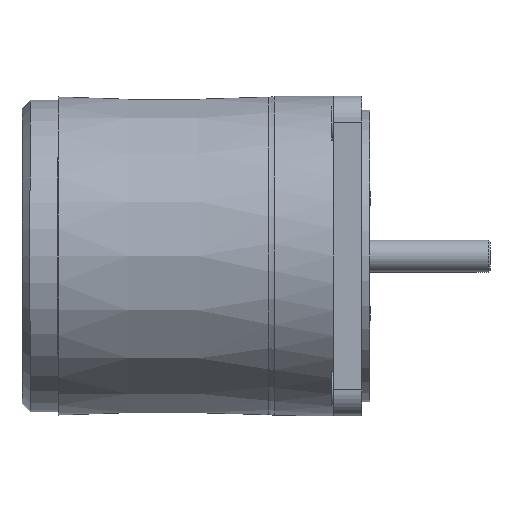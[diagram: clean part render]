
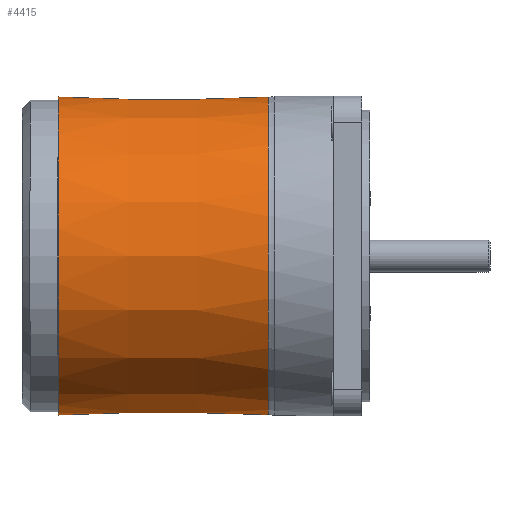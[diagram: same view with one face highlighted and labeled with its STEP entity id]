
A CAD part, front view. The second image highlights one B-rep face of the part: STEP entity #4415.
In plain terms, the highlighted conical face has half-angle 0.073 degrees and reference radius 39.784 mm.
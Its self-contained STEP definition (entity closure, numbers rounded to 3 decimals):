
#115=(
BOUNDED_CURVE()
B_SPLINE_CURVE(2,(#7958,#7959,#7960),.UNSPECIFIED.,.F.,.F.)
B_SPLINE_CURVE_WITH_KNOTS((3,3),(0.114,3.908),
 .UNSPECIFIED.)
CURVE()
GEOMETRIC_REPRESENTATION_ITEM()
RATIONAL_B_SPLINE_CURVE((1.,1.,1.))
REPRESENTATION_ITEM('')
);
#169=FACE_BOUND('',#945,.T.);
#240=CONICAL_SURFACE('',#4851,39.784,0.073);
#297=B_SPLINE_CURVE_WITH_KNOTS('',3,(#7945,#7946,#7947,#7948,#7949,#7950,
#7951,#7952,#7953,#7954,#7955,#7956),.UNSPECIFIED.,.F.,.F.,(4,2,2,2,2,4),
(-0.001,0.,0.027,0.048,0.073,
0.103),.UNSPECIFIED.);
#298=B_SPLINE_CURVE_WITH_KNOTS('',3,(#7966,#7967,#7968,#7969),
 .UNSPECIFIED.,.F.,.F.,(4,4),(-5.75,-1.842),
 .UNSPECIFIED.);
#299=B_SPLINE_CURVE_WITH_KNOTS('',3,(#7971,#7972,#7973,#7974),
 .UNSPECIFIED.,.F.,.F.,(4,4),(5.75,5.8),
 .UNSPECIFIED.);
#664=FACE_OUTER_BOUND('',#944,.T.);
#944=EDGE_LOOP('',(#3779,#3780,#3781,#3782,#3783,#3784,#3785));
#945=EDGE_LOOP('',(#3786));
#1203=CIRCLE('',#4840,39.75);
#1211=CIRCLE('',#4852,39.817);
#1212=CIRCLE('',#4853,39.817);
#1213=CIRCLE('',#4854,39.767);
#2125=VERTEX_POINT('',#7914);
#2136=VERTEX_POINT('',#7943);
#2137=VERTEX_POINT('',#7944);
#2138=VERTEX_POINT('',#7957);
#2139=VERTEX_POINT('',#7961);
#2140=VERTEX_POINT('',#7963);
#2141=VERTEX_POINT('',#7965);
#2142=VERTEX_POINT('',#7970);
#2696=EDGE_CURVE('',#2125,#2125,#1203,.T.);
#2707=EDGE_CURVE('',#2136,#2137,#297,.T.);
#2708=EDGE_CURVE('',#2137,#2138,#115,.T.);
#2709=EDGE_CURVE('',#2139,#2138,#1211,.T.);
#2710=EDGE_CURVE('',#2140,#2139,#1212,.T.);
#2711=EDGE_CURVE('',#2141,#2140,#298,.T.);
#2712=EDGE_CURVE('',#2141,#2142,#299,.T.);
#2713=EDGE_CURVE('',#2136,#2142,#1213,.T.);
#3779=ORIENTED_EDGE('',*,*,#2707,.T.);
#3780=ORIENTED_EDGE('',*,*,#2708,.T.);
#3781=ORIENTED_EDGE('',*,*,#2709,.F.);
#3782=ORIENTED_EDGE('',*,*,#2710,.F.);
#3783=ORIENTED_EDGE('',*,*,#2711,.F.);
#3784=ORIENTED_EDGE('',*,*,#2712,.T.);
#3785=ORIENTED_EDGE('',*,*,#2713,.F.);
#3786=ORIENTED_EDGE('',*,*,#2696,.T.);
#4415=ADVANCED_FACE('',(#664,#169),#240,.T.);
#4840=AXIS2_PLACEMENT_3D('',#7915,#5872,#5873);
#4851=AXIS2_PLACEMENT_3D('',#7942,#5896,#5897);
#4852=AXIS2_PLACEMENT_3D('',#7962,#5898,#5899);
#4853=AXIS2_PLACEMENT_3D('',#7964,#5900,#5901);
#4854=AXIS2_PLACEMENT_3D('',#7975,#5902,#5903);
#5872=DIRECTION('center_axis',(1.,0.,0.));
#5873=DIRECTION('ref_axis',(0.,1.,0.));
#5896=DIRECTION('center_axis',(1.,0.,0.));
#5897=DIRECTION('ref_axis',(0.,1.,0.));
#5898=DIRECTION('center_axis',(1.,0.,0.));
#5899=DIRECTION('ref_axis',(0.,1.,0.));
#5900=DIRECTION('center_axis',(1.,0.,0.));
#5901=DIRECTION('ref_axis',(0.,1.,0.));
#5902=DIRECTION('center_axis',(1.,0.,0.));
#5903=DIRECTION('ref_axis',(0.,1.,0.01));
#7914=CARTESIAN_POINT('',(9.,39.75,0.));
#7915=CARTESIAN_POINT('Origin',(9.,0.,0.));
#7942=CARTESIAN_POINT('Origin',(35.288,0.,0.));
#7943=CARTESIAN_POINT('',(22.001,28.641,-27.587));
#7944=CARTESIAN_POINT('',(23.636,28.041,-28.2));
#7945=CARTESIAN_POINT('Ctrl Pts',(22.001,28.641,-27.587));
#7946=CARTESIAN_POINT('Ctrl Pts',(22.002,28.64,-27.589));
#7947=CARTESIAN_POINT('Ctrl Pts',(22.003,28.638,-27.59));
#7948=CARTESIAN_POINT('Ctrl Pts',(22.044,28.581,-27.65));
#7949=CARTESIAN_POINT('Ctrl Pts',(22.115,28.498,-27.736));
#7950=CARTESIAN_POINT('Ctrl Pts',(22.343,28.338,-27.9));
#7951=CARTESIAN_POINT('Ctrl Pts',(22.457,28.278,-27.96));
#7952=CARTESIAN_POINT('Ctrl Pts',(22.724,28.17,-28.07));
#7953=CARTESIAN_POINT('Ctrl Pts',(22.88,28.126,-28.114));
#7954=CARTESIAN_POINT('Ctrl Pts',(23.234,28.058,-28.182));
#7955=CARTESIAN_POINT('Ctrl Pts',(23.435,28.041,-28.2));
#7956=CARTESIAN_POINT('Ctrl Pts',(23.636,28.041,-28.2));
#7957=CARTESIAN_POINT('',(61.576,28.11,-28.2));
#7958=CARTESIAN_POINT('Ctrl Pts',(23.636,28.041,-28.2));
#7959=CARTESIAN_POINT('Ctrl Pts',(42.583,28.076,-28.2));
#7960=CARTESIAN_POINT('Ctrl Pts',(61.576,28.11,-28.2));
#7961=CARTESIAN_POINT('',(61.576,27.541,28.756));
#7962=CARTESIAN_POINT('Origin',(61.576,0.,0.));
#7963=CARTESIAN_POINT('',(61.576,27.542,28.756));
#7964=CARTESIAN_POINT('Origin',(61.576,0.,0.));
#7965=CARTESIAN_POINT('',(22.5,27.471,28.754));
#7966=CARTESIAN_POINT('Ctrl Pts',(22.5,27.471,28.754));
#7967=CARTESIAN_POINT('Ctrl Pts',(35.525,27.495,28.754));
#7968=CARTESIAN_POINT('Ctrl Pts',(48.55,27.518,28.755));
#7969=CARTESIAN_POINT('Ctrl Pts',(61.576,27.542,28.756));
#7970=CARTESIAN_POINT('',(22.001,27.47,28.754));
#7971=CARTESIAN_POINT('Ctrl Pts',(22.5,27.471,28.754));
#7972=CARTESIAN_POINT('Ctrl Pts',(22.334,27.471,28.754));
#7973=CARTESIAN_POINT('Ctrl Pts',(22.167,27.47,28.754));
#7974=CARTESIAN_POINT('Ctrl Pts',(22.001,27.47,28.754));
#7975=CARTESIAN_POINT('Origin',(22.001,0.,0.));
